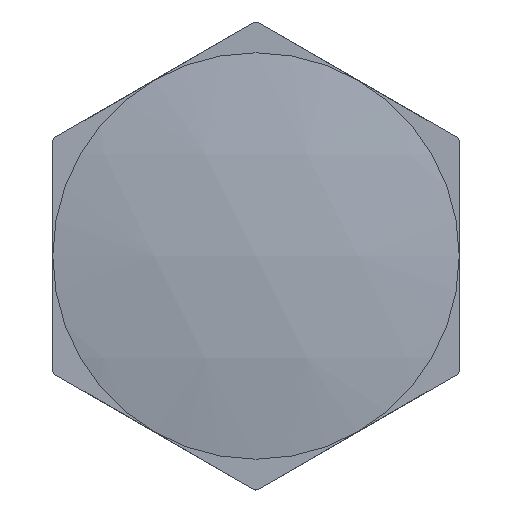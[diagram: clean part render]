
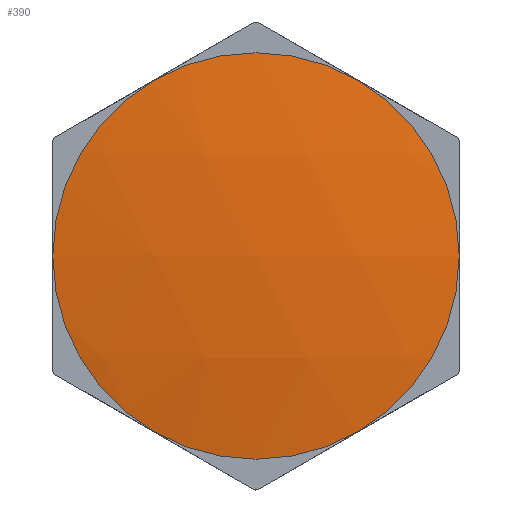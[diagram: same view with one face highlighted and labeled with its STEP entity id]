
A CAD part, left-side view. The second image highlights one B-rep face of the part: STEP entity #390.
In plain terms, the highlighted spherical face has radius 61 mm.
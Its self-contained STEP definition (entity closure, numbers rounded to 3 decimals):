
#16=SPHERICAL_SURFACE('',#438,61.);
#58=FACE_OUTER_BOUND('',#86,.T.);
#86=EDGE_LOOP('',(#353,#354,#355,#356,#357,#358));
#156=CIRCLE('',#408,11.);
#159=CIRCLE('',#415,11.);
#161=CIRCLE('',#419,11.);
#163=CIRCLE('',#424,11.);
#164=CIRCLE('',#426,11.);
#165=CIRCLE('',#428,11.);
#175=VERTEX_POINT('',#578);
#188=VERTEX_POINT('',#610);
#190=VERTEX_POINT('',#616);
#192=VERTEX_POINT('',#624);
#195=VERTEX_POINT('',#634);
#198=VERTEX_POINT('',#645);
#229=EDGE_CURVE('',#188,#190,#156,.T.);
#237=EDGE_CURVE('',#195,#192,#159,.T.);
#243=EDGE_CURVE('',#198,#195,#161,.T.);
#248=EDGE_CURVE('',#175,#198,#163,.T.);
#249=EDGE_CURVE('',#190,#175,#164,.T.);
#251=EDGE_CURVE('',#192,#188,#165,.T.);
#353=ORIENTED_EDGE('',*,*,#251,.T.);
#354=ORIENTED_EDGE('',*,*,#229,.T.);
#355=ORIENTED_EDGE('',*,*,#249,.T.);
#356=ORIENTED_EDGE('',*,*,#248,.T.);
#357=ORIENTED_EDGE('',*,*,#243,.T.);
#358=ORIENTED_EDGE('',*,*,#237,.T.);
#390=ADVANCED_FACE('',(#58),#16,.T.);
#408=AXIS2_PLACEMENT_3D('',#618,#488,#489);
#415=AXIS2_PLACEMENT_3D('',#635,#507,#508);
#419=AXIS2_PLACEMENT_3D('',#646,#519,#520);
#424=AXIS2_PLACEMENT_3D('',#655,#532,#533);
#426=AXIS2_PLACEMENT_3D('',#657,#536,#537);
#428=AXIS2_PLACEMENT_3D('',#660,#541,#542);
#438=AXIS2_PLACEMENT_3D('',#673,#561,#562);
#488=DIRECTION('center_axis',(-1.,0.,0.));
#489=DIRECTION('ref_axis',(0.,0.,1.));
#507=DIRECTION('center_axis',(-1.,0.,0.));
#508=DIRECTION('ref_axis',(0.,0.,1.));
#519=DIRECTION('center_axis',(-1.,0.,0.));
#520=DIRECTION('ref_axis',(0.,0.,1.));
#532=DIRECTION('center_axis',(-1.,0.,0.));
#533=DIRECTION('ref_axis',(0.,0.,1.));
#536=DIRECTION('center_axis',(-1.,0.,0.));
#537=DIRECTION('ref_axis',(0.,0.,1.));
#541=DIRECTION('center_axis',(-1.,0.,0.));
#542=DIRECTION('ref_axis',(0.,0.,1.));
#561=DIRECTION('center_axis',(0.,0.,1.));
#562=DIRECTION('ref_axis',(1.,0.,0.));
#578=CARTESIAN_POINT('',(1.,11.,0.));
#610=CARTESIAN_POINT('',(1.,-5.5,9.526));
#616=CARTESIAN_POINT('',(1.,5.5,9.526));
#618=CARTESIAN_POINT('Origin',(1.,0.,0.));
#624=CARTESIAN_POINT('',(1.,-11.,0.));
#634=CARTESIAN_POINT('',(1.,-5.5,-9.526));
#635=CARTESIAN_POINT('Origin',(1.,0.,0.));
#645=CARTESIAN_POINT('',(1.,5.5,-9.526));
#646=CARTESIAN_POINT('Origin',(1.,0.,0.));
#655=CARTESIAN_POINT('Origin',(1.,0.,0.));
#657=CARTESIAN_POINT('Origin',(1.,0.,0.));
#660=CARTESIAN_POINT('Origin',(1.,0.,0.));
#673=CARTESIAN_POINT('Origin',(61.,0.,0.));
